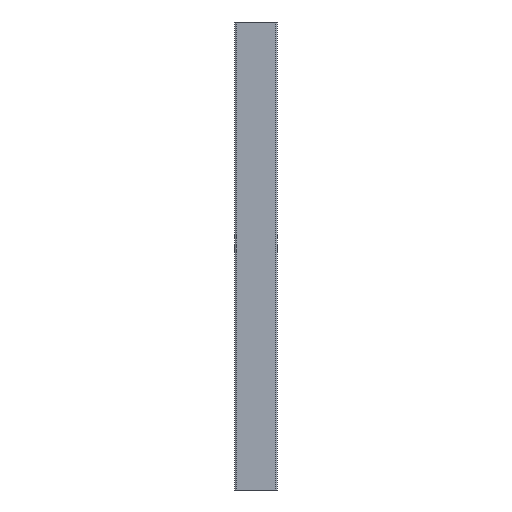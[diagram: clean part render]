
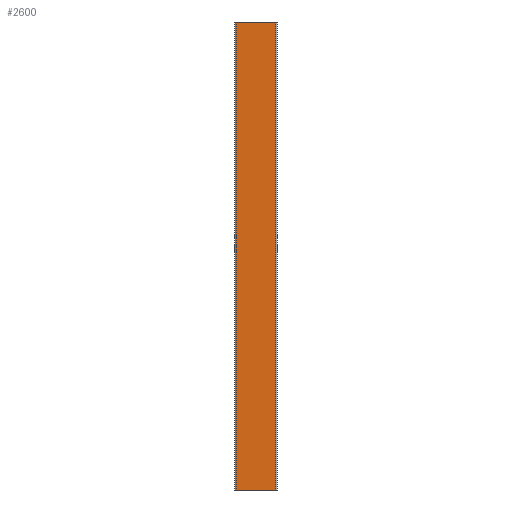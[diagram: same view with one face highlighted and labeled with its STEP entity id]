
A CAD part, left-side view. The second image highlights one B-rep face of the part: STEP entity #2600.
In plain terms, the highlighted planar face has unit normal (-1, 0, 0).
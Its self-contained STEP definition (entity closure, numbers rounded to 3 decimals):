
#173 = DIRECTION ( 'NONE',  ( 0., 0., 1. ) ) ;
#201 = CARTESIAN_POINT ( 'NONE',  ( -22.5, 0., 500. ) ) ;
#315 = VERTEX_POINT ( 'NONE', #1810 ) ;
#479 = LINE ( 'NONE', #1932, #1080 ) ;
#514 = ORIENTED_EDGE ( 'NONE', *, *, #3303, .T. ) ;
#632 = ORIENTED_EDGE ( 'NONE', *, *, #2908, .T. ) ;
#719 = DIRECTION ( 'NONE',  ( 0., -1., 0. ) ) ;
#723 = CARTESIAN_POINT ( 'NONE',  ( -22.5, 42., 500. ) ) ;
#1053 = DIRECTION ( 'NONE',  ( 1., 0., 0. ) ) ;
#1080 = VECTOR ( 'NONE', #719, 1000. ) ;
#1242 = CARTESIAN_POINT ( 'NONE',  ( -22.5, -42., 500. ) ) ;
#1313 = AXIS2_PLACEMENT_3D ( 'NONE', #201, #1053, #3068 ) ;
#1531 = CARTESIAN_POINT ( 'NONE',  ( -22.5, -42., 500. ) ) ;
#1578 = DIRECTION ( 'NONE',  ( 0., 0., -1. ) ) ;
#1715 = VERTEX_POINT ( 'NONE', #2456 ) ;
#1810 = CARTESIAN_POINT ( 'NONE',  ( -22.5, 42., -500. ) ) ;
#1932 = CARTESIAN_POINT ( 'NONE',  ( -22.5, 0., 500. ) ) ;
#2084 = VERTEX_POINT ( 'NONE', #1242 ) ;
#2141 = VECTOR ( 'NONE', #173, 1000. ) ;
#2161 = EDGE_LOOP ( 'NONE', ( #2357, #632, #3352, #514 ) ) ;
#2190 = VERTEX_POINT ( 'NONE', #2229 ) ;
#2229 = CARTESIAN_POINT ( 'NONE',  ( -22.5, 42., 500. ) ) ;
#2357 = ORIENTED_EDGE ( 'NONE', *, *, #3605, .T. ) ;
#2456 = CARTESIAN_POINT ( 'NONE',  ( -22.5, -42., -500. ) ) ;
#2558 = EDGE_CURVE ( 'NONE', #2190, #2084, #479, .T. ) ;
#2600 = ADVANCED_FACE ( 'NONE', ( #3290 ), #3627, .F. ) ;
#2815 = VECTOR ( 'NONE', #3401, 1000. ) ;
#2908 = EDGE_CURVE ( 'NONE', #1715, #2084, #3000, .T. ) ;
#3000 = LINE ( 'NONE', #1531, #2141 ) ;
#3067 = LINE ( 'NONE', #3685, #2815 ) ;
#3068 = DIRECTION ( 'NONE',  ( 0., 0., -1. ) ) ;
#3229 = VECTOR ( 'NONE', #1578, 1000. ) ;
#3274 = LINE ( 'NONE', #723, #3229 ) ;
#3290 = FACE_OUTER_BOUND ( 'NONE', #2161, .T. ) ;
#3303 = EDGE_CURVE ( 'NONE', #2190, #315, #3274, .T. ) ;
#3352 = ORIENTED_EDGE ( 'NONE', *, *, #2558, .F. ) ;
#3401 = DIRECTION ( 'NONE',  ( 0., -1., 0. ) ) ;
#3605 = EDGE_CURVE ( 'NONE', #315, #1715, #3067, .T. ) ;
#3627 = PLANE ( 'NONE',  #1313 ) ;
#3685 = CARTESIAN_POINT ( 'NONE',  ( -22.5, 0., -500. ) ) ;
